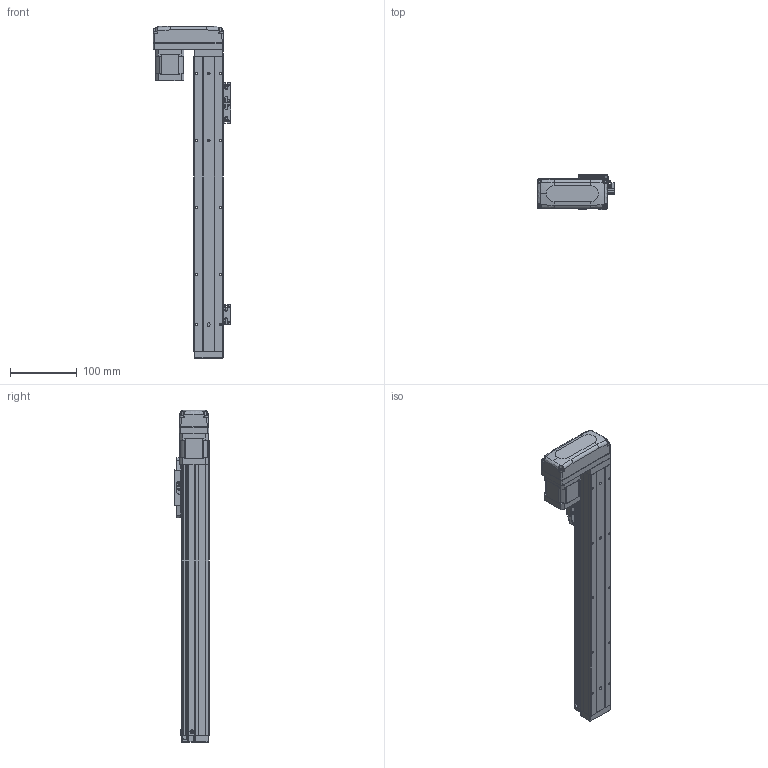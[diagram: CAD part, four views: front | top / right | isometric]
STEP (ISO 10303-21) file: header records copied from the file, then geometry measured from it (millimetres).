
FILE_DESCRIPTION (( 'STEP AP203' ), '1' );
FILE_NAME ('GTH4-300-BR-B42-C4.step', '2023-02-14T00:25:57', ( '微软用户' ), ( '微软中国' ), 'SwSTEP 2.0', 'SolidWorks 2020', '' );
FILE_SCHEMA (( 'CONFIG_CONTROL_DESIGN' ));
Length unit declared in the file: millimetre
Products named in the file (19): BTH-M3X5X6; BTH40-022; 42CM06; GBT70.1-2000 M3×16; GBT 70.1-M2.5×6; GTH4-300-BR-B42-C4; BTH50-028; BTH40-004; BTH50-023; BTH40-013; BTH40-001-50_BTH40-001-300; BTH50-024; GBT 70.3-M3℅6; BTH40-003; GBT 70.1-M3℅6; BTH40-027-1; BTH40-006; GBT96.1-2002 3×0.8; BTH50-026
Assembly tree (47 placements, depth 2):
  GTH4-300-BR-B42-C4
    BTH40-001-50_BTH40-001-300
    BTH40-003
    BTH40-006
    BTH-M3X5X6  x8
    GBT70.1-2000 M3×16  x4
    BTH50-028  x2
    BTH50-023  x3
    BTH50-024  x3
    GBT 70.1-M3℅6  x6
    GBT96.1-2002 3×0.8  x6
    BTH40-022
    GBT 70.1-M2.5×6  x2
    BTH40-004
    BTH40-013
    GBT 70.3-M3℅6  x4
    BTH40-027-1
    BTH50-026
    42CM06
Bounding box: 116.2 x 52 x 496 mm (x, y, z)
Volume: 930024.8 mm3; surface area: 198428.4 mm2
Topology: 56 solids, 56 shells, 3331 faces, 7760 edges, 4638 vertices
Faces by surface type: cone 1508, plane 1076, cylinder 569, torus 124, bspline 42, sphere 12
Entity records: 77742 total; most frequent: CARTESIAN_POINT 14017, DIRECTION 13817, ORIENTED_EDGE 12166, EDGE_CURVE 6083, AXIS2_PLACEMENT_3D 5301, VERTEX_POINT 3625, LINE 3215, VECTOR 3215
